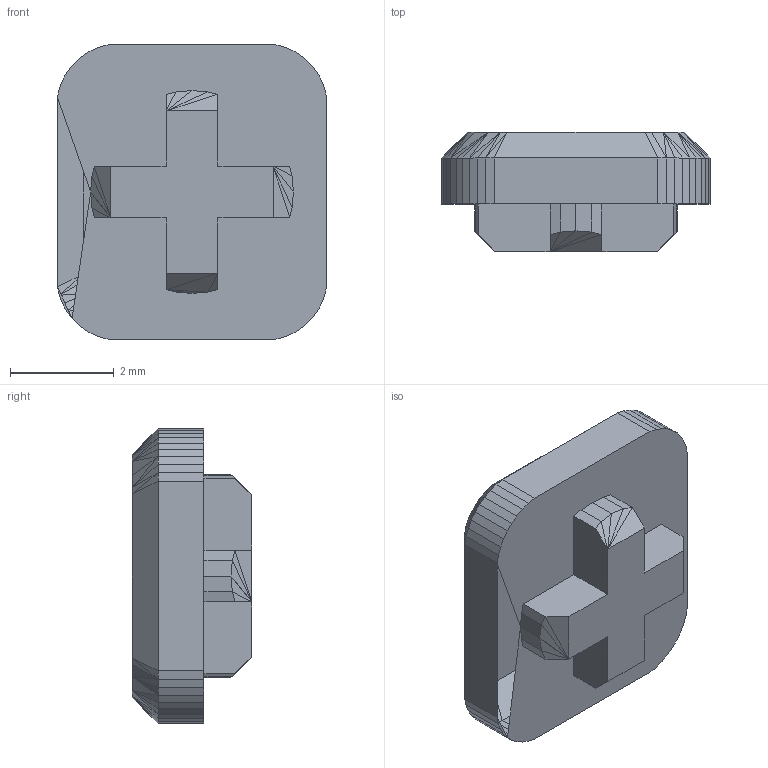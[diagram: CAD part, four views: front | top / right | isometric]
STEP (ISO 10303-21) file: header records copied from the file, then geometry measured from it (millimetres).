
FILE_DESCRIPTION(('Open CASCADE Model'),'2;1');
FILE_NAME('Open CASCADE Shape Model','2026-10-17T14:06:43',('Author'),( 'Open CASCADE'),'Open CASCADE STEP processor 8.0','build123d', 'Unknown');
FILE_SCHEMA(('AUTOMOTIVE_DESIGN { 1 0 10303 214 1 1 1 1 }'));
Length unit declared in the file: millimetre
Products named in the file (1): SOLID
Bounding box: 5.18 x 2.3 x 5.68 mm (x, y, z)
Volume: 42.4 mm3; surface area: 90 mm2
Topology: 1 solids, 2 shells, 148 faces, 306 edges, 162 vertices
Faces by surface type: plane 148
Entity records: 7526 total; most frequent: CARTESIAN_POINT 1361, DIRECTION 1086, LINE 788, VECTOR 788, ORIENTED_EDGE 612, PCURVE 612, DEFINITIONAL_REPRESENTATION 612, EDGE_CURVE 306
